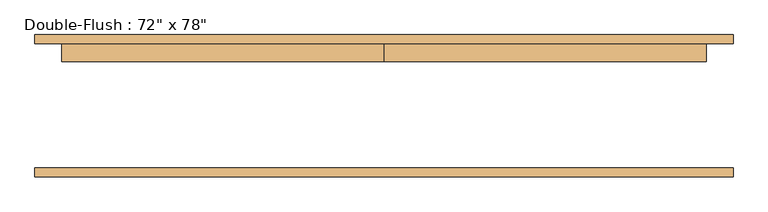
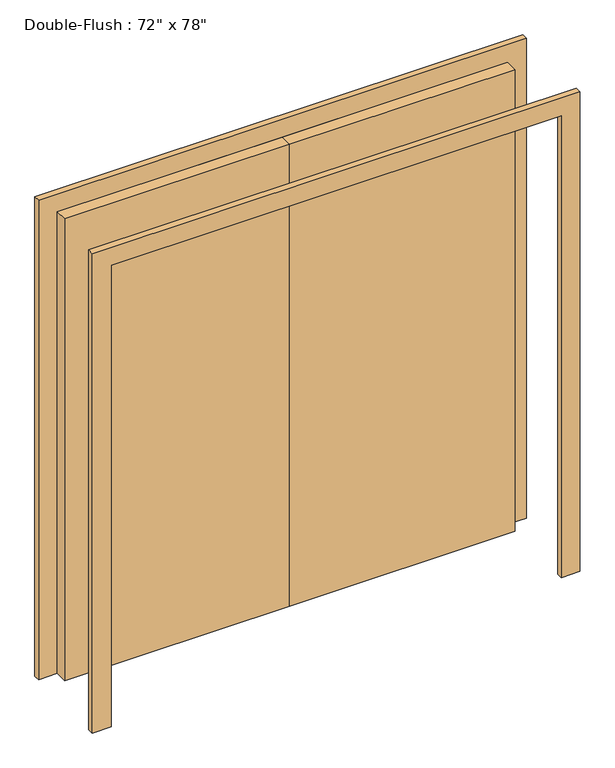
"""IFC4 building model written with IfcOpenShell, lengths in millimetres: door geometry."""

from ifc_helpers import new_model, si_unit, frame, origin, origin_with_axes, place, context, project, spatial, polyline, outline, extrude, source, transform, mapped, element, save


def door_088b6e61(model_context):
    return source(origin(), model_context, "Body", "SweptSolid", [
        extrude(outline(polyline([(0.0, 176.2125), (914.4, 176.2125), (914.4, 125.4125), (0.0, 125.4125), (0.0, 176.2125)])), origin_with_axes(), (0.0, 0.0, 1.0), 1981.2),
        extrude(outline(polyline([(-914.4, 176.2125), (0.0, 176.2125), (0.0, 125.4125), (-914.4, 125.4125), (-914.4, 176.2125)])), origin_with_axes(), (0.0, 0.0, 1.0), 1981.2),
        extrude(outline(polyline([(1981.2, -914.4), (1981.2, 914.4), (0.0, 914.4), (0.0, 990.6), (2057.4, 990.6), (2057.4, -990.6), (0.0, -990.6), (0.0, -914.4), (1981.2, -914.4)])), frame((0.0, -201.6125, 0.0), z_axis=(0.0, 1.0, 0.0), x_axis=(0.0, 0.0, 1.0)), (0.0, 0.0, 1.0), 25.4),
        extrude(outline(polyline([(1981.2, -914.4), (1981.2, 914.4), (0.0, 914.4), (0.0, 990.6), (2057.4, 990.6), (2057.4, -990.6), (0.0, -990.6), (0.0, -914.4), (1981.2, -914.4)])), frame((0.0, 176.2125, 0.0), z_axis=(0.0, 1.0, 0.0), x_axis=(0.0, 0.0, 1.0)), (0.0, 0.0, 1.0), 25.4),
    ])


if __name__ == "__main__":
    model = new_model("IFC4")
    model_context = context("Model", 3, world=origin())
    ifc_project = project(units=[si_unit("LENGTHUNIT", "METRE", prefix="MILLI")], contexts=[model_context])
    site = spatial("IfcSite", under=ifc_project)
    building = spatial("IfcBuilding", under=site)
    placement = place(None, origin())
    door_shape = door_088b6e61(model_context)
    element("IfcDoor", 1, ObjectType="Double-Flush : 72\" x 78\"", at=placement, inside=building, context=model_context, shape_type="MappedRepresentation", body=[
        mapped(door_shape, transform((0.0, 0.0, 0.0), x_axis=(1.0, 0.0, 0.0), y_axis=(0.0, 1.0, 0.0), z_axis=(0.0, 0.0, 1.0))),
    ])
    save(model, "model.ifc")
